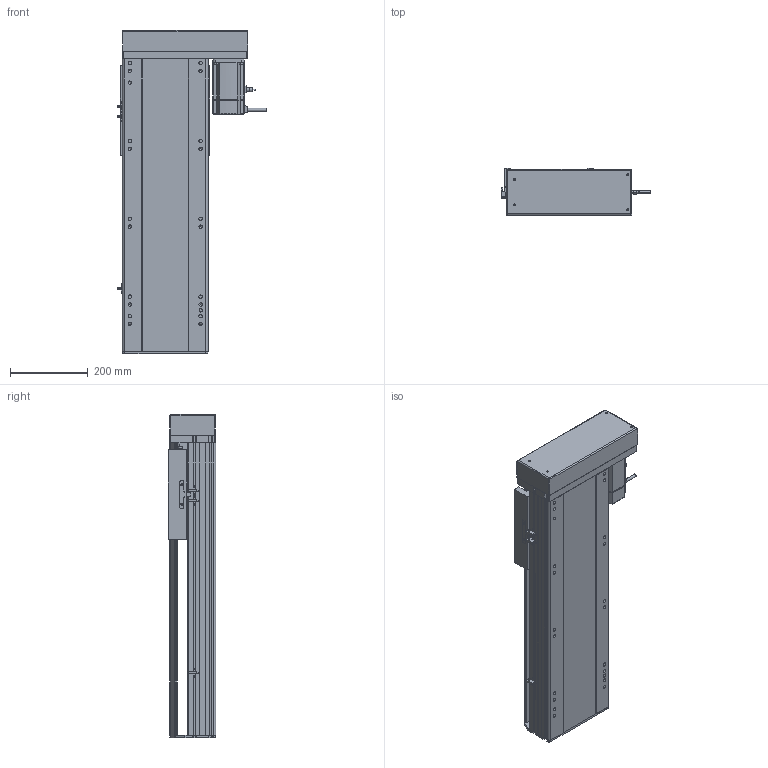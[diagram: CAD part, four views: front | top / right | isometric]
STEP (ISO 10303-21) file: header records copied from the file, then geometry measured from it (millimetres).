
FILE_DESCRIPTION (( 'STEP AP214' ), '1' );
FILE_NAME ('RTH22-XX-450-L-M75-C4.STEP', '2025-10-24T10:56:57', ( 'Microsoft' ), ( 'Microsoft' ), 'SwSTEP 2.0', 'SolidWorks 2018', '' );
FILE_SCHEMA (( 'AUTOMOTIVE_DESIGN' ));
Length unit declared in the file: millimetre
Products named in the file (10): N_RTH22-GY-013外置感应片^RTH22-XX-XX-L-M75-C4; N_OMRON EE-SX672 传感器^RTH22-XX-XX-L-M75-C4; N_RTH22-L-018裔赽^RTH22-XX-XX-L-M75-C4; N_RTH22-L-004-SFS25賑釱^RTH22-XX-XX-L-M75-C4; N_RTH22-L-007奻裔^RTH22-XX-XX-L-M75-C4; N_750W萇儂^RTH22-XX-XX-L-M75-C4; N_RTH22-GY-001耜裔^RTH22-XX-XX-L-M75-C4; N_RTH22-L-011菁釱^RTH22-XX-XX-L-M75-C4; RTH22-XX-450-L-M75-C4; N_RTH22-L-008-P75萇儂啣^RTH22-XX-XX-L-M75-C4
Assembly tree (11 placements, depth 2):
  RTH22-XX-450-L-M75-C4
    N_RTH22-L-011菁釱^RTH22-XX-XX-L-M75-C4
    N_RTH22-GY-001耜裔^RTH22-XX-XX-L-M75-C4
    N_750W萇儂^RTH22-XX-XX-L-M75-C4
    N_RTH22-L-008-P75萇儂啣^RTH22-XX-XX-L-M75-C4
    N_RTH22-L-007奻裔^RTH22-XX-XX-L-M75-C4
    N_RTH22-L-018裔赽^RTH22-XX-XX-L-M75-C4
    N_OMRON EE-SX672 传感器^RTH22-XX-XX-L-M75-C4  x3
    N_RTH22-GY-013外置感应片^RTH22-XX-XX-L-M75-C4
    N_RTH22-L-004-SFS25賑釱^RTH22-XX-XX-L-M75-C4
Bounding box: 384.7 x 122 x 829.7 mm (x, y, z)
Volume: 12470994.9 mm3; surface area: 1479406.7 mm2
Topology: 11 solids, 11 shells, 1570 faces, 4279 edges, 2761 vertices
Faces by surface type: plane 791, cylinder 446, bspline 279, cone 54
Entity records: 39019 total; most frequent: CARTESIAN_POINT 11966, ORIENTED_EDGE 5542, DIRECTION 5201, EDGE_CURVE 2771, VERTEX_POINT 1797, AXIS2_PLACEMENT_3D 1736, VECTOR 1729, LINE 1729
